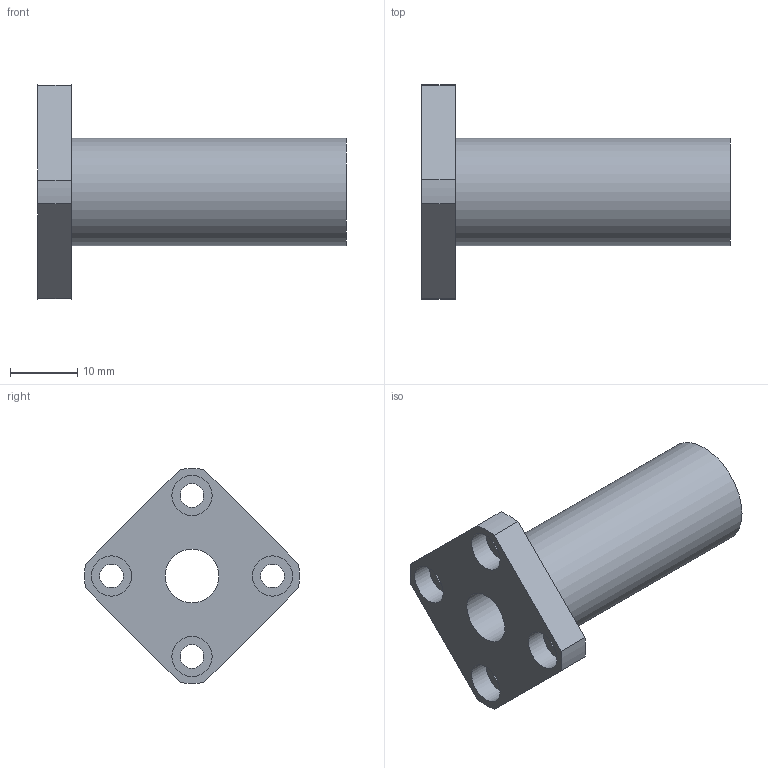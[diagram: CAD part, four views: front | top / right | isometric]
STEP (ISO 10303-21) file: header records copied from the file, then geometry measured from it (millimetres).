
FILE_DESCRIPTION( ( 'STEP AP203' ), '1' );
FILE_NAME( 'p:/temp/worker_11/temp/exporttempdir_2968_2270_e8vW4/format_0/LMEK8LUU.stp', '2020-05-07T07:01:10', ( 'License CC BY-ND 4.0' ), ( 'CADENAS' ), ' ', 'PARTsolutions', ' ' );
FILE_SCHEMA( ( 'CONFIG_CONTROL_DESIGN' ) );
Length unit declared in the file: millimetre
Products named in the file (1): _LMEK8LUU
Bounding box: 46 x 31.98 x 31.98 mm (x, y, z)
Volume: 8574.2 mm3; surface area: 5054.1 mm2
Topology: 1 solids, 1 shells, 25 faces, 55 edges, 37 vertices
Faces by surface type: cylinder 14, plane 11
Full cylindrical faces by diameter (mm): 3.5 x4, 6 x4, 8 x1, 16 x1
Entity records: 710 total; most frequent: DIRECTION 124, CARTESIAN_POINT 106, ORIENTED_EDGE 88, AXIS2_PLACEMENT_3D 54, EDGE_LOOP 50, EDGE_CURVE 44, VERTEX_POINT 36, FACE_OUTER_BOUND 35
